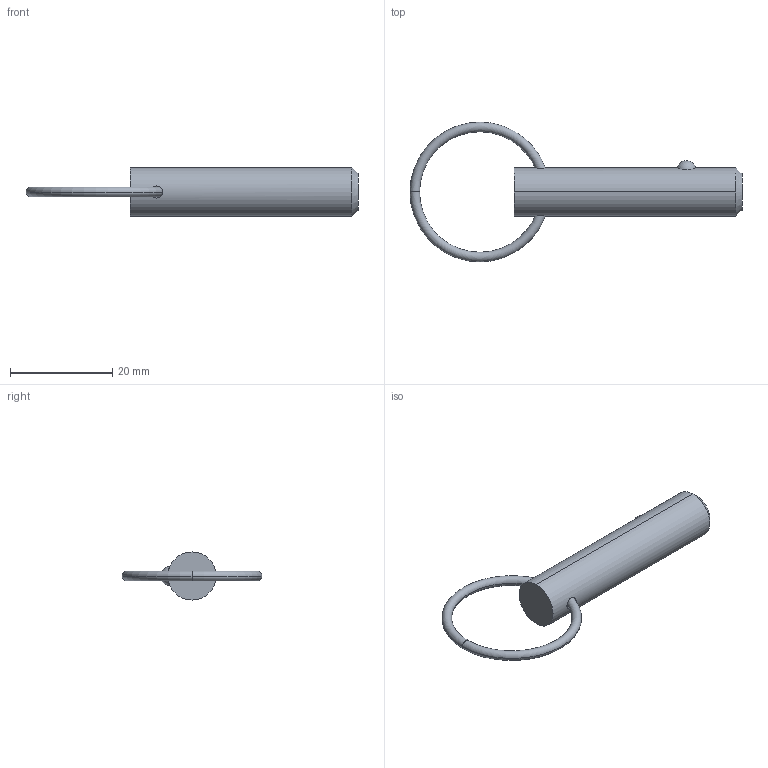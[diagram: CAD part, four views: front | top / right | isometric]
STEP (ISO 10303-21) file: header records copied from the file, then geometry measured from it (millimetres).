
FILE_DESCRIPTION (( 'STEP AP203' ), '1' );
FILE_NAME ('33012.W3710.step', '2024-11-01T14:09:24', ( '' ), ( '' ), 'SwSTEP 2.0', 'SolidWorks 2019', '' );
FILE_SCHEMA (( 'CONFIG_CONTROL_DESIGN' ));
Length unit declared in the file: millimetre
Products named in the file (3): 33012.W3710; Part2_33012.W3710; Part1_33012.W3710
Assembly tree (2 placements, depth 2):
  33012.W3710
    Part1_33012.W3710
    Part2_33012.W3710
Bounding box: 64.79 x 27.28 x 9.4 mm (x, y, z)
Volume: 3256.1 mm3; surface area: 1969.2 mm2
Topology: 2 solids, 2 shells, 16 faces, 31 edges, 18 vertices
Faces by surface type: torus 8, sphere 2, cone 2, cylinder 2, plane 2
Entity records: 849 total; most frequent: CARTESIAN_POINT 206, DIRECTION 88, ORIENTED_EDGE 62, AXIS2_PLACEMENT_3D 42, EDGE_CURVE 31, PERSON_AND_ORGANIZATION 26, CIRCLE 21, EDGE_LOOP 19
